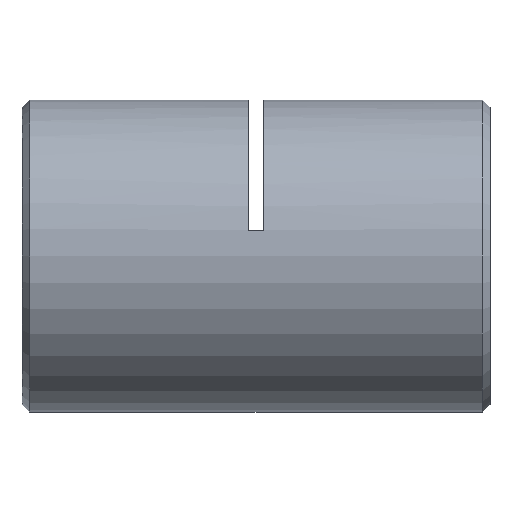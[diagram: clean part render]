
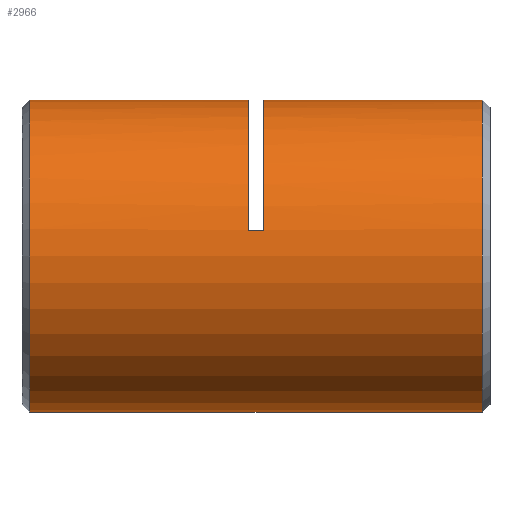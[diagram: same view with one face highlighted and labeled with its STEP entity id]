
A CAD part, left-side view. The second image highlights one B-rep face of the part: STEP entity #2966.
In plain terms, the highlighted cylindrical face has radius 10 mm (diameter 20 mm), a partial arc.
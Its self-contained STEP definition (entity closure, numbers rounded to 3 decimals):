
#19 = DIRECTION ( 'NONE',  ( 0., 1., 0. ) ) ;
#20 = DIRECTION ( 'NONE',  ( 0., 0., -1. ) ) ;
#89 = CARTESIAN_POINT ( 'NONE',  ( 0., 0., 10. ) ) ;
#423 = CIRCLE ( 'NONE', #4043, 10. ) ;
#490 = EDGE_CURVE ( 'NONE', #4172, #801, #3370, .T. ) ;
#664 = EDGE_CURVE ( 'NONE', #4172, #1455, #4758, .T. ) ;
#801 = VERTEX_POINT ( 'NONE', #2400 ) ;
#855 = DIRECTION ( 'NONE',  ( 0., 0., 1. ) ) ;
#869 = ORIENTED_EDGE ( 'NONE', *, *, #664, .T. ) ;
#910 = DIRECTION ( 'NONE',  ( 0., 0., 1. ) ) ;
#1132 = CARTESIAN_POINT ( 'NONE',  ( 0., 14.75, 10. ) ) ;
#1171 = ORIENTED_EDGE ( 'NONE', *, *, #490, .F. ) ;
#1219 = CARTESIAN_POINT ( 'NONE',  ( -9.86, 15.75, 1.667 ) ) ;
#1266 = LINE ( 'NONE', #4245, #2983 ) ;
#1345 = CARTESIAN_POINT ( 'NONE',  ( -9.86, 15.25, 1.667 ) ) ;
#1402 = CARTESIAN_POINT ( 'NONE',  ( -9.86, 14.75, 1.667 ) ) ;
#1447 = VECTOR ( 'NONE', #19, 1000. ) ;
#1455 = VERTEX_POINT ( 'NONE', #2540 ) ;
#1512 = DIRECTION ( 'NONE',  ( 0., 1., 0. ) ) ;
#1713 = DIRECTION ( 'NONE',  ( 0., 1., 0. ) ) ;
#1782 = CARTESIAN_POINT ( 'NONE',  ( 0., 29.75, 10. ) ) ;
#1786 = ORIENTED_EDGE ( 'NONE', *, *, #4414, .T. ) ;
#1846 = CARTESIAN_POINT ( 'NONE',  ( 0., 29.75, 0. ) ) ;
#2165 = DIRECTION ( 'NONE',  ( 0., 1., 0. ) ) ;
#2258 = ORIENTED_EDGE ( 'NONE', *, *, #5121, .F. ) ;
#2400 = CARTESIAN_POINT ( 'NONE',  ( 0., 29.75, -10. ) ) ;
#2402 = LINE ( 'NONE', #89, #4228 ) ;
#2407 = CIRCLE ( 'NONE', #5063, 10. ) ;
#2540 = CARTESIAN_POINT ( 'NONE',  ( 0., 0.75, 10. ) ) ;
#2587 = CARTESIAN_POINT ( 'NONE',  ( 0., 15.75, 10. ) ) ;
#2724 = AXIS2_PLACEMENT_3D ( 'NONE', #3580, #4489, #855 ) ;
#2942 = VERTEX_POINT ( 'NONE', #1219 ) ;
#2966 = ADVANCED_FACE ( 'NONE', ( #4890 ), #3550, .T. ) ;
#2983 = VECTOR ( 'NONE', #3810, 1000. ) ;
#3222 = CARTESIAN_POINT ( 'NONE',  ( 0., 14.75, 0. ) ) ;
#3370 = LINE ( 'NONE', #4178, #4418 ) ;
#3478 = DIRECTION ( 'NONE',  ( 0., 0., 1. ) ) ;
#3550 = CYLINDRICAL_SURFACE ( 'NONE', #5228, 10. ) ;
#3580 = CARTESIAN_POINT ( 'NONE',  ( 0., 15.75, 0. ) ) ;
#3621 = DIRECTION ( 'NONE',  ( 0., 1., 0. ) ) ;
#3634 = LINE ( 'NONE', #1345, #1447 ) ;
#3784 = CARTESIAN_POINT ( 'NONE',  ( 0., 0.75, -10. ) ) ;
#3810 = DIRECTION ( 'NONE',  ( 0., 1., 0. ) ) ;
#3893 = EDGE_LOOP ( 'NONE', ( #1171, #869, #5840, #2258, #1786, #5760, #4998, #4410 ) ) ;
#3919 = VERTEX_POINT ( 'NONE', #2587 ) ;
#3974 = VERTEX_POINT ( 'NONE', #1782 ) ;
#4043 = AXIS2_PLACEMENT_3D ( 'NONE', #1846, #4495, #20 ) ;
#4172 = VERTEX_POINT ( 'NONE', #3784 ) ;
#4178 = CARTESIAN_POINT ( 'NONE',  ( 0., 0., -10. ) ) ;
#4228 = VECTOR ( 'NONE', #4583, 1000. ) ;
#4245 = CARTESIAN_POINT ( 'NONE',  ( 0., 0., 10. ) ) ;
#4410 = ORIENTED_EDGE ( 'NONE', *, *, #5113, .T. ) ;
#4414 = EDGE_CURVE ( 'NONE', #5544, #2942, #3634, .T. ) ;
#4418 = VECTOR ( 'NONE', #1512, 1000. ) ;
#4422 = CARTESIAN_POINT ( 'NONE',  ( 0., 0.75, 0. ) ) ;
#4454 = AXIS2_PLACEMENT_3D ( 'NONE', #4422, #1713, #3478 ) ;
#4489 = DIRECTION ( 'NONE',  ( 0., 1., 0. ) ) ;
#4495 = DIRECTION ( 'NONE',  ( 0., -1., 0. ) ) ;
#4537 = VERTEX_POINT ( 'NONE', #1132 ) ;
#4583 = DIRECTION ( 'NONE',  ( 0., 1., 0. ) ) ;
#4758 = CIRCLE ( 'NONE', #4454, 10. ) ;
#4804 = EDGE_CURVE ( 'NONE', #2942, #3919, #5583, .T. ) ;
#4890 = FACE_OUTER_BOUND ( 'NONE', #3893, .T. ) ;
#4998 = ORIENTED_EDGE ( 'NONE', *, *, #5712, .T. ) ;
#5063 = AXIS2_PLACEMENT_3D ( 'NONE', #3222, #3621, #910 ) ;
#5113 = EDGE_CURVE ( 'NONE', #3974, #801, #423, .T. ) ;
#5121 = EDGE_CURVE ( 'NONE', #5544, #4537, #2407, .T. ) ;
#5228 = AXIS2_PLACEMENT_3D ( 'NONE', #5757, #2165, #5350 ) ;
#5236 = EDGE_CURVE ( 'NONE', #1455, #4537, #1266, .T. ) ;
#5350 = DIRECTION ( 'NONE',  ( 0., 0., 1. ) ) ;
#5544 = VERTEX_POINT ( 'NONE', #1402 ) ;
#5583 = CIRCLE ( 'NONE', #2724, 10. ) ;
#5712 = EDGE_CURVE ( 'NONE', #3919, #3974, #2402, .T. ) ;
#5757 = CARTESIAN_POINT ( 'NONE',  ( 0., 0., 0. ) ) ;
#5760 = ORIENTED_EDGE ( 'NONE', *, *, #4804, .T. ) ;
#5840 = ORIENTED_EDGE ( 'NONE', *, *, #5236, .T. ) ;
